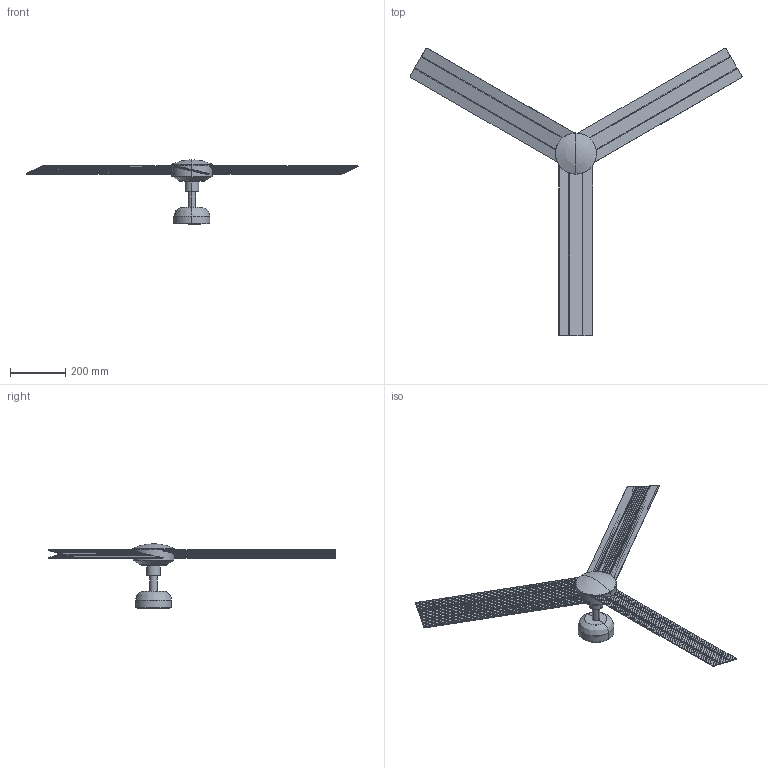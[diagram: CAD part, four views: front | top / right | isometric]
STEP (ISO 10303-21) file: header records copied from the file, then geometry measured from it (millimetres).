
FILE_DESCRIPTION(/* description */ (''),/* implementation_level */ '2;1');
FILE_NAME(/* name */ '34291.step',/* time_stamp */ '2024-04-16T13:01:11+02:00',/* author */ ('RenataManzini'),/* organization */ (''),/* preprocessor_version */ 'ST-DEVELOPER v20',/* originating_system */ 'AutoCAD Mechanical',/* authorisation */ '');
FILE_SCHEMA (('AUTOMOTIVE_DESIGN { 1 0 10303 214 3 1 1 }'));
Length unit declared in the file: millimetre
Products named in the file (6): Product; pieza_34285 - Cruiser-479574-_3D_; pieza_34285 - pala 1320_dwg-480838-_3D_; pieza_34285 - pala 1320_dwg_ABYP____-480839-_3D_; pieza_34285 - pala 1320_dwg_ABYP____-V1-_3D_; pieza_34285 - Cruiser without light-1060_dwg_ABW2C6_____-480837-_3D_
Assembly tree (6 placements, depth 4):
  Product
    pieza_34285 - Cruiser-479574-_3D_
      pieza_34285 - pala 1320_dwg-480838-_3D_
        pieza_34285 - pala 1320_dwg_ABYP____-480839-_3D_
        pieza_34285 - pala 1320_dwg_ABYP____-V1-_3D_  x2
      pieza_34285 - Cruiser without light-1060_dwg_ABW2C6_____-480837-_3D_
Bounding box: 1201.36 x 1041.84 x 233.02 mm (x, y, z)
Volume: 826814.1 mm3; surface area: 695129.2 mm2
Topology: 2 solids, 6 shells, 379 faces, 1093 edges, 696 vertices
Faces by surface type: plane 252, cylinder 100, torus 17, bspline 6, cone 4
Entity records: 12040 total; most frequent: CARTESIAN_POINT 3714, ORIENTED_EDGE 1764, DIRECTION 1691, EDGE_CURVE 896, AXIS2_PLACEMENT_3D 582, VERTEX_POINT 570, LINE 527, VECTOR 527
